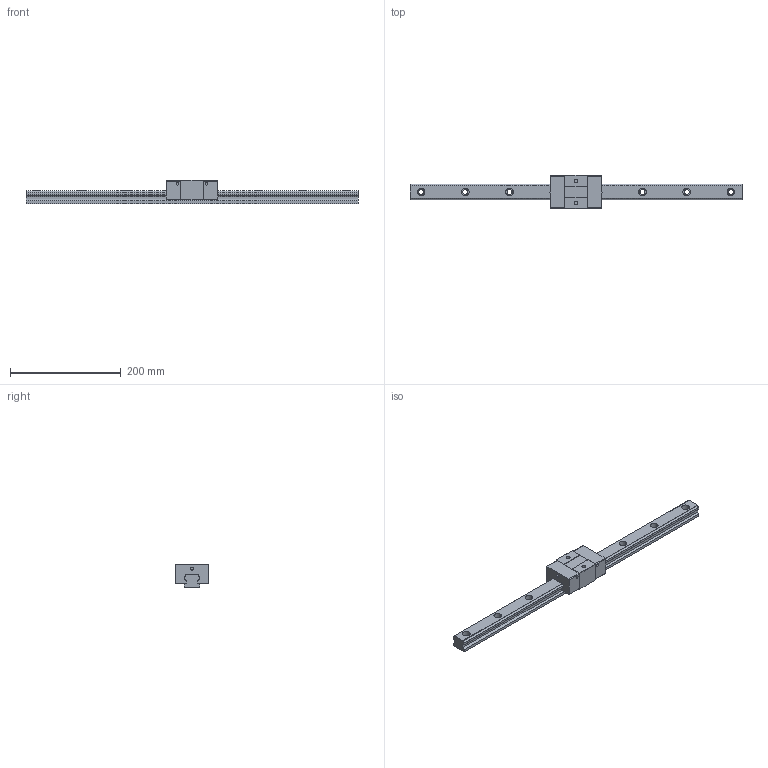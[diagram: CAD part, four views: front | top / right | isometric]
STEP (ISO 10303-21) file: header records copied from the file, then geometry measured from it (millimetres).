
FILE_DESCRIPTION (( 'STEP AP203' ), '1' );
FILE_NAME ('TRS30VS-DZ.STEP', '2024-06-28T07:28:05', ( '' ), ( '' ), 'SwSTEP 2.0', 'SolidWorks 2022', '' );
FILE_SCHEMA (( 'CONFIG_CONTROL_DESIGN' ));
Length unit declared in the file: millimetre
Products named in the file (1): TRS30VS-DZ
Bounding box: 600 x 60 x 42 mm (x, y, z)
Volume: 473972.6 mm3; surface area: 95300.8 mm2
Topology: 2 solids, 2 shells, 172 faces, 452 edges, 300 vertices
Faces by surface type: plane 88, cylinder 84
Entity records: 5459 total; most frequent: DIRECTION 966, CARTESIAN_POINT 925, ORIENTED_EDGE 904, EDGE_CURVE 452, AXIS2_PLACEMENT_3D 341, VERTEX_POINT 300, LINE 284, VECTOR 284
